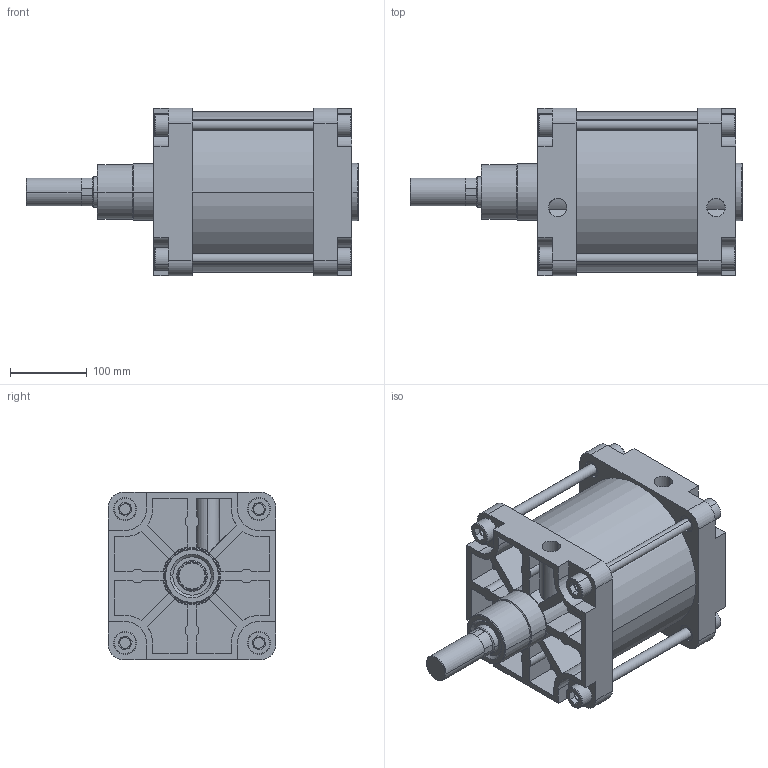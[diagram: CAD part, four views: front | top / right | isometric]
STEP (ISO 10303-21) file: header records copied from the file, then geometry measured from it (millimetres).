
FILE_DESCRIPTION(('CATIA V5 STEP Exchange'),'2;1');
FILE_NAME('D:\stp file for catalog\PNC\200\PNC 200-40-80.stp','2015-10-14T10:55:22+00:00',('none'),('none'),'Version 5-6 Release 2012','CATIA V5 STEP AP203','none');
FILE_SCHEMA(('CONFIG_CONTROL_DESIGN'));
Length unit declared in the file: millimetre
Products named in the file (1): PNC 200-40-80-00
Assembly tree (2 placements, depth 2):
  PNC 200-40-80-00
    #58
    #15053
Bounding box: 434 x 219 x 219 mm (x, y, z)
Volume: 6306687.7 mm3; surface area: 905602.2 mm2
Topology: 6 solids, 8 shells, 579 faces, 1424 edges, 938 vertices
Faces by surface type: plane 345, cylinder 184, torus 28, extrusion 16, cone 6
Entity records: 15943 total; most frequent: CARTESIAN_POINT 3401, ORIENTED_EDGE 2848, DIRECTION 1932, EDGE_CURVE 1424, VERTEX_POINT 938, VECTOR 924, LINE 908, AXIS2_PLACEMENT_3D 712
